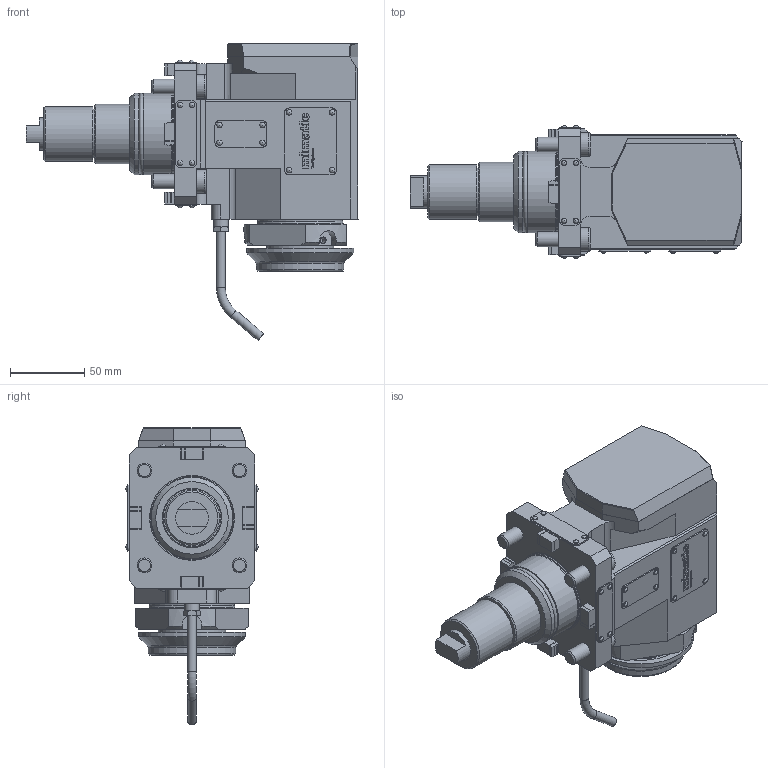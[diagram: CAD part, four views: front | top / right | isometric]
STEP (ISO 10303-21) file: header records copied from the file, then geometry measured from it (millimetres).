
FILE_DESCRIPTION(/* description */ (''),/* implementation_level */ '2;1');
FILE_NAME(/* name */ '190512',/* time_stamp */ '2020-12-17T13:51:11+01:00',/* author */ (''),/* organization */ (''),/* preprocessor_version */ 'ST-DEVELOPER v16.5',/* originating_system */ 'HiCAD 2017 2201.0 Build 268',/* authorisation */ '');
FILE_SCHEMA (('AUTOMOTIVE_DESIGN { 1 0 10303 214 1 1 1 1 }'));
Length unit declared in the file: millimetre
Products named in the file (71): Root; Leeres Teil; 114052_O-Ring 49x3_330*; ROTATIONSTEIL_0_215*; DIN 6912 - M 10 x 30 - 8.8_Zylinderkopfschraube DIN 6912 - M 10 x 30 
- 8.8_400*; 112485_Überwurfschraube_351*; 115994_Typenschild 35x18_372*; 113692_Kerbnagel 2x4_380*; TRANSLATIONSTEIL_1_211*; TRANSLATIONSTEIL_0_371*; TRANSLATIONSTEIL_1_210*; ROTATIONSTEIL_0_216*; 001_000X_205*; FEDERDRUCKSTÜCK; 112339_Federdruckstück ø6_354*; KUGEL D5; KUGEL D9; 114184_Kugel D9_352*; 003_000X_203*; TORUS_1_353*; ROTATIONSTEIL_0_110*; ROTATIONSTEIL_0_100*; 00040064_200*; QUADER_0_370*
Assembly tree (70 placements, depth 5):
  Root
    Leeres Teil
      114052_O-Ring 49x3_330*
      ROTATIONSTEIL_0_215*
      DIN 6912 - M 10 x 30 - 8.8_Zylinderkopfschraube DIN 6912 - M 10 x 30 
- 8.8_400*
      DIN 6912 - M 10 x 30 - 8.8_Zylinderkopfschraube DIN 6912 - M 10 x 30 
- 8.8_400*
      DIN 6912 - M 10 x 30 - 8.8_Zylinderkopfschraube DIN 6912 - M 10 x 30 
- 8.8_400*
      DIN 6912 - M 10 x 30 - 8.8_Zylinderkopfschraube DIN 6912 - M 10 x 30 
- 8.8_400*
      112485_Überwurfschraube_351*
      Leeres Teil
        115994_Typenschild 35x18_372*
        113692_Kerbnagel 2x4_380*
        113692_Kerbnagel 2x4_380*
        113692_Kerbnagel 2x4_380*
        113692_Kerbnagel 2x4_380*
      Leeres Teil
        TRANSLATIONSTEIL_1_211*
        Leeres Teil
          113692_Kerbnagel 2x4_380*
          113692_Kerbnagel 2x4_380*
          113692_Kerbnagel 2x4_380*
          113692_Kerbnagel 2x4_380*
          TRANSLATIONSTEIL_0_371*
      Leeres Teil
        Leeres Teil
          113692_Kerbnagel 2x4_380*
          113692_Kerbnagel 2x4_380*
          113692_Kerbnagel 2x4_380*
          113692_Kerbnagel 2x4_380*
          TRANSLATIONSTEIL_0_371*
      Leeres Teil
        TRANSLATIONSTEIL_1_210*
        Leeres Teil
          113692_Kerbnagel 2x4_380*
          113692_Kerbnagel 2x4_380*
          113692_Kerbnagel 2x4_380*
          113692_Kerbnagel 2x4_380*
          TRANSLATIONSTEIL_0_371*
      Leeres Teil
        Leeres Teil
          113692_Kerbnagel 2x4_380*
          113692_Kerbnagel 2x4_380*
          113692_Kerbnagel 2x4_380*
          113692_Kerbnagel 2x4_380*
          TRANSLATIONSTEIL_0_371*
      Leeres Teil
        113692_Kerbnagel 2x4_380*
        113692_Kerbnagel 2x4_380*
        113692_Kerbnagel 2x4_380*
        113692_Kerbnagel 2x4_380*
      ROTATIONSTEIL_0_216*
      001_000X_205*
      FEDERDRUCKSTÜCK
        112339_Federdruckstück ø6_354*
          KUGEL D5
        112339_Federdruckstück ø6_354*
          KUGEL D5
        112339_Federdruckstück ø6_354*
          KUGEL D5
      KUGEL D9
Bounding box: 224 x 89.6 x 200.37 mm (x, y, z)
Volume: 1197656.2 mm3; surface area: 157667.1 mm2
Topology: 65 solids, 65 shells, 849 faces, 2034 edges, 1333 vertices
Faces by surface type: plane 511, cylinder 182, cone 52, bspline 38, torus 36, sphere 30
Full cylindrical faces by diameter (mm): 2 x4, 2.2 x8, 2.3 x16, 4 x5, 4.2 x1, 4.5 x1, 5 x3, 6 x10, 6.5 x3, 7.2 x3, 9.12 x6, 10 x6, 11.2 x3, 16 x4, 18 x1, 22 x1, 22.027 x2, 33 x1, 36 x1, 37 x1, 38.027 x2, 40 x1, 45 x1, 45.5 x1, 46 x2, 46.01 x1, 46.15 x1, 48 x2, 49.6 x1, 52.62 x1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
Entity records: 46388 total; most frequent: CARTESIAN_POINT 9091, DIRECTION 4019, PRESENTATION_STYLE_ASSIGNMENT 3561, OVER_RIDING_STYLED_ITEM 3504, COLOUR_RGB 3501, DRAUGHTING_PRE_DEFINED_CURVE_FONT 3496, CURVE_STYLE 3496, ORIENTED_EDGE 3496
